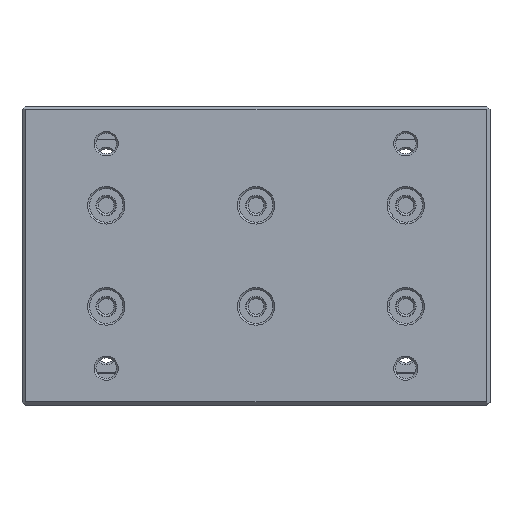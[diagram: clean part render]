
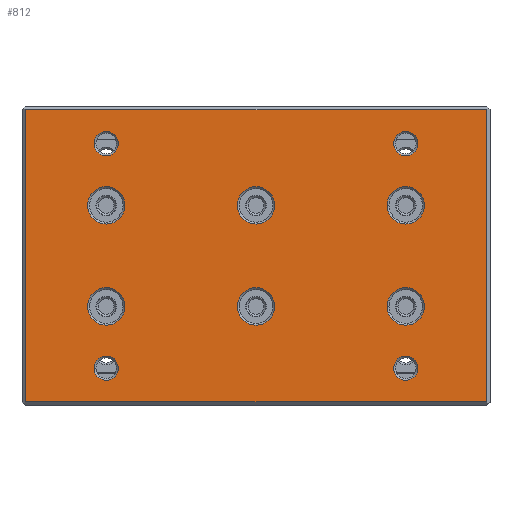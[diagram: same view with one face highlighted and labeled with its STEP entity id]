
A CAD part, top view. The second image highlights one B-rep face of the part: STEP entity #812.
In plain terms, the highlighted planar face has unit normal (0, 0, 1) as drawn and (0, 0, -1) by its records, which use the part's own axes.
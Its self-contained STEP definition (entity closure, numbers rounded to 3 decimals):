
#812=ADVANCED_FACE('',(#1666,#1667,#1668,#1669,#1670,#1671,#1672,#1673,
#1674,#1675,#1676),#1183,.F.);
#1183=PLANE('',#6205);
#1294=CIRCLE('',#6185,5.);
#1295=CIRCLE('',#6186,5.);
#1296=CIRCLE('',#6187,5.);
#1297=CIRCLE('',#6188,5.);
#1298=CIRCLE('',#6189,3.25);
#1299=CIRCLE('',#6190,3.25);
#1300=CIRCLE('',#6191,5.);
#1301=CIRCLE('',#6192,5.);
#1302=CIRCLE('',#6193,5.);
#1303=CIRCLE('',#6194,5.);
#1304=CIRCLE('',#6195,3.25);
#1305=CIRCLE('',#6196,3.25);
#1306=CIRCLE('',#6197,5.);
#1307=CIRCLE('',#6198,5.);
#1308=CIRCLE('',#6199,5.);
#1309=CIRCLE('',#6200,5.);
#1310=CIRCLE('',#6201,3.25);
#1311=CIRCLE('',#6202,3.25);
#1312=CIRCLE('',#6203,3.25);
#1313=CIRCLE('',#6204,3.25);
#1666=FACE_BOUND('',#1792,.T.);
#1667=FACE_BOUND('',#1793,.T.);
#1668=FACE_BOUND('',#1794,.T.);
#1669=FACE_BOUND('',#1795,.T.);
#1670=FACE_BOUND('',#1796,.T.);
#1671=FACE_BOUND('',#1797,.T.);
#1672=FACE_BOUND('',#1798,.T.);
#1673=FACE_BOUND('',#1799,.T.);
#1674=FACE_BOUND('',#1800,.T.);
#1675=FACE_BOUND('',#1801,.T.);
#1676=FACE_BOUND('',#1802,.T.);
#1792=EDGE_LOOP('',(#2249,#2250,#2251,#2252));
#1793=EDGE_LOOP('',(#2253,#2254));
#1794=EDGE_LOOP('',(#2255,#2256));
#1795=EDGE_LOOP('',(#2257,#2258));
#1796=EDGE_LOOP('',(#2259,#2260));
#1797=EDGE_LOOP('',(#2261,#2262));
#1798=EDGE_LOOP('',(#2263,#2264));
#1799=EDGE_LOOP('',(#2265,#2266));
#1800=EDGE_LOOP('',(#2267,#2268));
#1801=EDGE_LOOP('',(#2269,#2270));
#1802=EDGE_LOOP('',(#2271,#2272));
#2249=ORIENTED_EDGE('',*,*,#4536,.T.);
#2250=ORIENTED_EDGE('',*,*,#4537,.T.);
#2251=ORIENTED_EDGE('',*,*,#4538,.T.);
#2252=ORIENTED_EDGE('',*,*,#4539,.T.);
#2253=ORIENTED_EDGE('',*,*,#4540,.T.);
#2254=ORIENTED_EDGE('',*,*,#4541,.T.);
#2255=ORIENTED_EDGE('',*,*,#4542,.T.);
#2256=ORIENTED_EDGE('',*,*,#4543,.T.);
#2257=ORIENTED_EDGE('',*,*,#4544,.T.);
#2258=ORIENTED_EDGE('',*,*,#4545,.T.);
#2259=ORIENTED_EDGE('',*,*,#4546,.T.);
#2260=ORIENTED_EDGE('',*,*,#4547,.T.);
#2261=ORIENTED_EDGE('',*,*,#4548,.T.);
#2262=ORIENTED_EDGE('',*,*,#4549,.T.);
#2263=ORIENTED_EDGE('',*,*,#4550,.T.);
#2264=ORIENTED_EDGE('',*,*,#4551,.T.);
#2265=ORIENTED_EDGE('',*,*,#4552,.T.);
#2266=ORIENTED_EDGE('',*,*,#4553,.T.);
#2267=ORIENTED_EDGE('',*,*,#4554,.T.);
#2268=ORIENTED_EDGE('',*,*,#4555,.T.);
#2269=ORIENTED_EDGE('',*,*,#4556,.T.);
#2270=ORIENTED_EDGE('',*,*,#4557,.T.);
#2271=ORIENTED_EDGE('',*,*,#4558,.T.);
#2272=ORIENTED_EDGE('',*,*,#4559,.T.);
#4001=VERTEX_POINT('',#8816);
#4002=VERTEX_POINT('',#8817);
#4003=VERTEX_POINT('',#8819);
#4004=VERTEX_POINT('',#8821);
#4005=VERTEX_POINT('',#8824);
#4006=VERTEX_POINT('',#8825);
#4007=VERTEX_POINT('',#8828);
#4008=VERTEX_POINT('',#8829);
#4009=VERTEX_POINT('',#8832);
#4010=VERTEX_POINT('',#8833);
#4011=VERTEX_POINT('',#8836);
#4012=VERTEX_POINT('',#8837);
#4013=VERTEX_POINT('',#8840);
#4014=VERTEX_POINT('',#8841);
#4015=VERTEX_POINT('',#8844);
#4016=VERTEX_POINT('',#8845);
#4017=VERTEX_POINT('',#8848);
#4018=VERTEX_POINT('',#8849);
#4019=VERTEX_POINT('',#8852);
#4020=VERTEX_POINT('',#8853);
#4021=VERTEX_POINT('',#8856);
#4022=VERTEX_POINT('',#8857);
#4023=VERTEX_POINT('',#8860);
#4024=VERTEX_POINT('',#8861);
#4536=EDGE_CURVE('',#4001,#4002,#5412,.T.);
#4537=EDGE_CURVE('',#4002,#4003,#5413,.T.);
#4538=EDGE_CURVE('',#4003,#4004,#5414,.T.);
#4539=EDGE_CURVE('',#4004,#4001,#5415,.T.);
#4540=EDGE_CURVE('',#4005,#4006,#1294,.T.);
#4541=EDGE_CURVE('',#4006,#4005,#1295,.T.);
#4542=EDGE_CURVE('',#4007,#4008,#1296,.T.);
#4543=EDGE_CURVE('',#4008,#4007,#1297,.T.);
#4544=EDGE_CURVE('',#4009,#4010,#1298,.T.);
#4545=EDGE_CURVE('',#4010,#4009,#1299,.T.);
#4546=EDGE_CURVE('',#4011,#4012,#1300,.T.);
#4547=EDGE_CURVE('',#4012,#4011,#1301,.T.);
#4548=EDGE_CURVE('',#4013,#4014,#1302,.T.);
#4549=EDGE_CURVE('',#4014,#4013,#1303,.T.);
#4550=EDGE_CURVE('',#4015,#4016,#1304,.T.);
#4551=EDGE_CURVE('',#4016,#4015,#1305,.T.);
#4552=EDGE_CURVE('',#4017,#4018,#1306,.T.);
#4553=EDGE_CURVE('',#4018,#4017,#1307,.T.);
#4554=EDGE_CURVE('',#4019,#4020,#1308,.T.);
#4555=EDGE_CURVE('',#4020,#4019,#1309,.T.);
#4556=EDGE_CURVE('',#4021,#4022,#1310,.T.);
#4557=EDGE_CURVE('',#4022,#4021,#1311,.T.);
#4558=EDGE_CURVE('',#4023,#4024,#1312,.T.);
#4559=EDGE_CURVE('',#4024,#4023,#1313,.T.);
#5412=LINE('',#8815,#5798);
#5413=LINE('',#8818,#5799);
#5414=LINE('',#8820,#5800);
#5415=LINE('',#8822,#5801);
#5798=VECTOR('',#6934,1.);
#5799=VECTOR('',#6935,1.);
#5800=VECTOR('',#6936,1.);
#5801=VECTOR('',#6937,1.);
#6185=AXIS2_PLACEMENT_3D('',#8823,#6938,#6939);
#6186=AXIS2_PLACEMENT_3D('',#8826,#6940,#6941);
#6187=AXIS2_PLACEMENT_3D('',#8827,#6942,#6943);
#6188=AXIS2_PLACEMENT_3D('',#8830,#6944,#6945);
#6189=AXIS2_PLACEMENT_3D('',#8831,#6946,#6947);
#6190=AXIS2_PLACEMENT_3D('',#8834,#6948,#6949);
#6191=AXIS2_PLACEMENT_3D('',#8835,#6950,#6951);
#6192=AXIS2_PLACEMENT_3D('',#8838,#6952,#6953);
#6193=AXIS2_PLACEMENT_3D('',#8839,#6954,#6955);
#6194=AXIS2_PLACEMENT_3D('',#8842,#6956,#6957);
#6195=AXIS2_PLACEMENT_3D('',#8843,#6958,#6959);
#6196=AXIS2_PLACEMENT_3D('',#8846,#6960,#6961);
#6197=AXIS2_PLACEMENT_3D('',#8847,#6962,#6963);
#6198=AXIS2_PLACEMENT_3D('',#8850,#6964,#6965);
#6199=AXIS2_PLACEMENT_3D('',#8851,#6966,#6967);
#6200=AXIS2_PLACEMENT_3D('',#8854,#6968,#6969);
#6201=AXIS2_PLACEMENT_3D('',#8855,#6970,#6971);
#6202=AXIS2_PLACEMENT_3D('',#8858,#6972,#6973);
#6203=AXIS2_PLACEMENT_3D('',#8859,#6974,#6975);
#6204=AXIS2_PLACEMENT_3D('',#8862,#6976,#6977);
#6205=AXIS2_PLACEMENT_3D('',#8863,#6978,#6979);
#6934=DIRECTION('',(1.,0.,0.));
#6935=DIRECTION('',(0.,-1.,0.));
#6936=DIRECTION('',(-1.,0.,0.));
#6937=DIRECTION('',(0.,1.,0.));
#6938=DIRECTION('',(0.,0.,1.));
#6939=DIRECTION('',(1.,0.,0.));
#6940=DIRECTION('',(0.,0.,1.));
#6941=DIRECTION('',(1.,0.,0.));
#6942=DIRECTION('',(0.,0.,1.));
#6943=DIRECTION('',(1.,0.,0.));
#6944=DIRECTION('',(0.,0.,1.));
#6945=DIRECTION('',(1.,0.,0.));
#6946=DIRECTION('',(0.,0.,1.));
#6947=DIRECTION('',(1.,0.,0.));
#6948=DIRECTION('',(0.,0.,1.));
#6949=DIRECTION('',(1.,0.,0.));
#6950=DIRECTION('',(0.,0.,1.));
#6951=DIRECTION('',(1.,0.,0.));
#6952=DIRECTION('',(0.,0.,1.));
#6953=DIRECTION('',(1.,0.,0.));
#6954=DIRECTION('',(0.,0.,1.));
#6955=DIRECTION('',(1.,0.,0.));
#6956=DIRECTION('',(0.,0.,1.));
#6957=DIRECTION('',(1.,0.,0.));
#6958=DIRECTION('',(0.,0.,1.));
#6959=DIRECTION('',(1.,0.,0.));
#6960=DIRECTION('',(0.,0.,1.));
#6961=DIRECTION('',(1.,0.,0.));
#6962=DIRECTION('',(0.,0.,1.));
#6963=DIRECTION('',(1.,0.,0.));
#6964=DIRECTION('',(0.,0.,1.));
#6965=DIRECTION('',(1.,0.,0.));
#6966=DIRECTION('',(0.,0.,1.));
#6967=DIRECTION('',(1.,0.,0.));
#6968=DIRECTION('',(0.,0.,1.));
#6969=DIRECTION('',(1.,0.,0.));
#6970=DIRECTION('',(0.,0.,1.));
#6971=DIRECTION('',(1.,0.,0.));
#6972=DIRECTION('',(0.,0.,1.));
#6973=DIRECTION('',(1.,0.,0.));
#6974=DIRECTION('',(0.,0.,1.));
#6975=DIRECTION('',(1.,0.,0.));
#6976=DIRECTION('',(0.,0.,1.));
#6977=DIRECTION('',(1.,0.,0.));
#6978=DIRECTION('',(0.,0.,1.));
#6979=DIRECTION('',(-1.,0.,0.));
#8815=CARTESIAN_POINT('',(1.,39.,0.));
#8816=CARTESIAN_POINT('',(1.,39.,0.));
#8817=CARTESIAN_POINT('',(124.,39.,0.));
#8818=CARTESIAN_POINT('',(124.,39.,0.));
#8819=CARTESIAN_POINT('',(124.,-39.,0.));
#8820=CARTESIAN_POINT('',(124.,-39.,0.));
#8821=CARTESIAN_POINT('',(1.,-39.,0.));
#8822=CARTESIAN_POINT('',(1.,-39.,0.));
#8823=CARTESIAN_POINT('',(22.5,13.5,0.));
#8824=CARTESIAN_POINT('',(17.5,13.5,0.));
#8825=CARTESIAN_POINT('',(27.5,13.5,0.));
#8826=CARTESIAN_POINT('',(22.5,13.5,0.));
#8827=CARTESIAN_POINT('',(22.5,-13.5,0.));
#8828=CARTESIAN_POINT('',(17.5,-13.5,0.));
#8829=CARTESIAN_POINT('',(27.5,-13.5,0.));
#8830=CARTESIAN_POINT('',(22.5,-13.5,0.));
#8831=CARTESIAN_POINT('',(22.5,-30.,0.));
#8832=CARTESIAN_POINT('',(19.25,-30.,0.));
#8833=CARTESIAN_POINT('',(25.75,-30.,0.));
#8834=CARTESIAN_POINT('',(22.5,-30.,0.));
#8835=CARTESIAN_POINT('',(62.5,13.5,0.));
#8836=CARTESIAN_POINT('',(57.5,13.5,0.));
#8837=CARTESIAN_POINT('',(67.5,13.5,0.));
#8838=CARTESIAN_POINT('',(62.5,13.5,0.));
#8839=CARTESIAN_POINT('',(62.5,-13.5,0.));
#8840=CARTESIAN_POINT('',(57.5,-13.5,0.));
#8841=CARTESIAN_POINT('',(67.5,-13.5,0.));
#8842=CARTESIAN_POINT('',(62.5,-13.5,0.));
#8843=CARTESIAN_POINT('',(102.5,-30.,0.));
#8844=CARTESIAN_POINT('',(99.25,-30.,0.));
#8845=CARTESIAN_POINT('',(105.75,-30.,0.));
#8846=CARTESIAN_POINT('',(102.5,-30.,0.));
#8847=CARTESIAN_POINT('',(102.5,-13.5,0.));
#8848=CARTESIAN_POINT('',(97.5,-13.5,0.));
#8849=CARTESIAN_POINT('',(107.5,-13.5,0.));
#8850=CARTESIAN_POINT('',(102.5,-13.5,0.));
#8851=CARTESIAN_POINT('',(102.5,13.5,0.));
#8852=CARTESIAN_POINT('',(97.5,13.5,0.));
#8853=CARTESIAN_POINT('',(107.5,13.5,0.));
#8854=CARTESIAN_POINT('',(102.5,13.5,0.));
#8855=CARTESIAN_POINT('',(102.5,30.,0.));
#8856=CARTESIAN_POINT('',(99.25,30.,0.));
#8857=CARTESIAN_POINT('',(105.75,30.,0.));
#8858=CARTESIAN_POINT('',(102.5,30.,0.));
#8859=CARTESIAN_POINT('',(22.5,30.,0.));
#8860=CARTESIAN_POINT('',(19.25,30.,0.));
#8861=CARTESIAN_POINT('',(25.75,30.,0.));
#8862=CARTESIAN_POINT('',(22.5,30.,0.));
#8863=CARTESIAN_POINT('',(0.,0.,0.));
